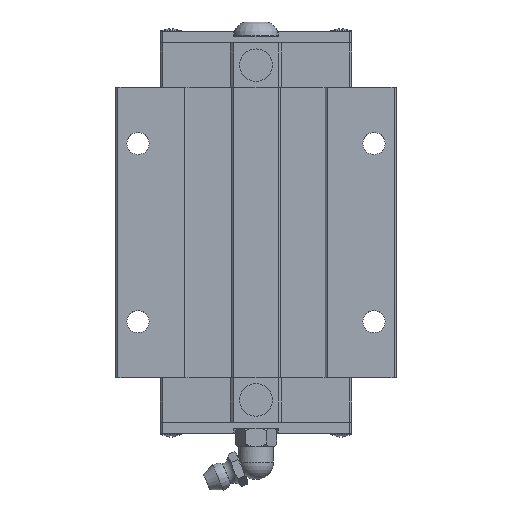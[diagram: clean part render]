
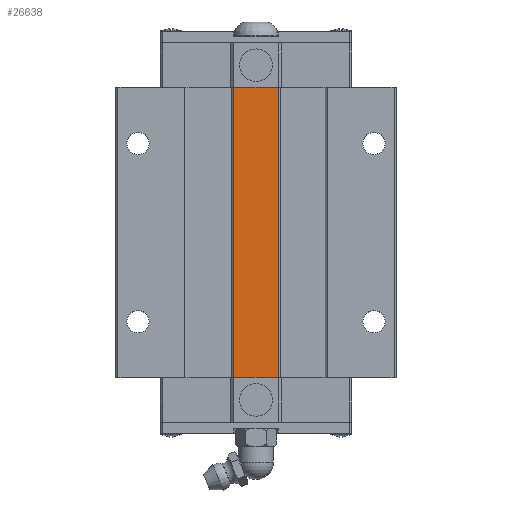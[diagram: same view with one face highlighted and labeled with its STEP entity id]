
A CAD part, top view. The second image highlights one B-rep face of the part: STEP entity #26638.
In plain terms, the highlighted planar face has unit normal (0, 0, 1).
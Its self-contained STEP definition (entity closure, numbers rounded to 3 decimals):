
#14038 = PLANE('',#14039);
#14039 = AXIS2_PLACEMENT_3D('',#14040,#14041,#14042);
#14040 = CARTESIAN_POINT('',(0.,77.7,18.91));
#14041 = DIRECTION('',(0.,-1.,0.));
#14042 = DIRECTION('',(1.,0.,0.));
#23508 = PLANE('',#23509);
#23509 = AXIS2_PLACEMENT_3D('',#23510,#23511,#23512);
#23510 = CARTESIAN_POINT('',(0.,12.5,18.91));
#23511 = DIRECTION('',(0.,-1.,0.));
#23512 = DIRECTION('',(1.,0.,0.));
#25455 = VERTEX_POINT('',#25456);
#25456 = CARTESIAN_POINT('',(5.,12.5,30.));
#25470 = PLANE('',#25471);
#25471 = AXIS2_PLACEMENT_3D('',#25472,#25473,#25474);
#25472 = CARTESIAN_POINT('',(5.,77.7,30.));
#25473 = DIRECTION('',(0.707,0.,0.707));
#25474 = DIRECTION('',(-0.707,0.,0.707));
#25482 = EDGE_CURVE('',#25483,#25455,#25485,.T.);
#25483 = VERTEX_POINT('',#25484);
#25484 = CARTESIAN_POINT('',(-5.,12.5,30.));
#25485 = SURFACE_CURVE('',#25486,(#25490,#25497),.PCURVE_S1.);
#25486 = LINE('',#25487,#25488);
#25487 = CARTESIAN_POINT('',(5.,12.5,30.));
#25488 = VECTOR('',#25489,1.);
#25489 = DIRECTION('',(1.,0.,0.));
#25490 = PCURVE('',#23508,#25491);
#25491 = DEFINITIONAL_REPRESENTATION('',(#25492),#25496);
#25492 = LINE('',#25493,#25494);
#25493 = CARTESIAN_POINT('',(5.,11.09));
#25494 = VECTOR('',#25495,1.);
#25495 = DIRECTION('',(1.,0.));
#25496 = ( GEOMETRIC_REPRESENTATION_CONTEXT(2) 
PARAMETRIC_REPRESENTATION_CONTEXT() REPRESENTATION_CONTEXT('2D SPACE',''
  ) );
#25497 = PCURVE('',#25498,#25503);
#25498 = PLANE('',#25499);
#25499 = AXIS2_PLACEMENT_3D('',#25500,#25501,#25502);
#25500 = CARTESIAN_POINT('',(-5.,77.7,30.));
#25501 = DIRECTION('',(0.,0.,1.));
#25502 = DIRECTION('',(-1.,0.,0.));
#25503 = DEFINITIONAL_REPRESENTATION('',(#25504),#25508);
#25504 = LINE('',#25505,#25506);
#25505 = CARTESIAN_POINT('',(-10.,65.2));
#25506 = VECTOR('',#25507,1.);
#25507 = DIRECTION('',(-1.,0.));
#25508 = ( GEOMETRIC_REPRESENTATION_CONTEXT(2) 
PARAMETRIC_REPRESENTATION_CONTEXT() REPRESENTATION_CONTEXT('2D SPACE',''
  ) );
#25526 = PLANE('',#25527);
#25527 = AXIS2_PLACEMENT_3D('',#25528,#25529,#25530);
#25528 = CARTESIAN_POINT('',(-5.5,77.7,29.5));
#25529 = DIRECTION('',(-0.707,0.,0.707));
#25530 = DIRECTION('',(-0.707,0.,-0.707));
#26328 = VERTEX_POINT('',#26329);
#26329 = CARTESIAN_POINT('',(-5.,77.7,30.));
#26350 = EDGE_CURVE('',#26351,#26328,#26353,.T.);
#26351 = VERTEX_POINT('',#26352);
#26352 = CARTESIAN_POINT('',(5.,77.7,30.));
#26353 = SURFACE_CURVE('',#26354,(#26358,#26365),.PCURVE_S1.);
#26354 = LINE('',#26355,#26356);
#26355 = CARTESIAN_POINT('',(5.,77.7,30.));
#26356 = VECTOR('',#26357,1.);
#26357 = DIRECTION('',(-1.,0.,0.));
#26358 = PCURVE('',#14038,#26359);
#26359 = DEFINITIONAL_REPRESENTATION('',(#26360),#26364);
#26360 = LINE('',#26361,#26362);
#26361 = CARTESIAN_POINT('',(5.,11.09));
#26362 = VECTOR('',#26363,1.);
#26363 = DIRECTION('',(-1.,0.));
#26364 = ( GEOMETRIC_REPRESENTATION_CONTEXT(2) 
PARAMETRIC_REPRESENTATION_CONTEXT() REPRESENTATION_CONTEXT('2D SPACE',''
  ) );
#26365 = PCURVE('',#25498,#26366);
#26366 = DEFINITIONAL_REPRESENTATION('',(#26367),#26371);
#26367 = LINE('',#26368,#26369);
#26368 = CARTESIAN_POINT('',(-10.,0.));
#26369 = VECTOR('',#26370,1.);
#26370 = DIRECTION('',(1.,0.));
#26371 = ( GEOMETRIC_REPRESENTATION_CONTEXT(2) 
PARAMETRIC_REPRESENTATION_CONTEXT() REPRESENTATION_CONTEXT('2D SPACE',''
  ) );
#26596 = EDGE_CURVE('',#26328,#25483,#26597,.T.);
#26597 = SURFACE_CURVE('',#26598,(#26602,#26609),.PCURVE_S1.);
#26598 = LINE('',#26599,#26600);
#26599 = CARTESIAN_POINT('',(-5.,77.7,30.));
#26600 = VECTOR('',#26601,1.);
#26601 = DIRECTION('',(0.,-1.,0.));
#26602 = PCURVE('',#25526,#26603);
#26603 = DEFINITIONAL_REPRESENTATION('',(#26604),#26608);
#26604 = LINE('',#26605,#26606);
#26605 = CARTESIAN_POINT('',(-0.707,0.));
#26606 = VECTOR('',#26607,1.);
#26607 = DIRECTION('',(-0.,1.));
#26608 = ( GEOMETRIC_REPRESENTATION_CONTEXT(2) 
PARAMETRIC_REPRESENTATION_CONTEXT() REPRESENTATION_CONTEXT('2D SPACE',''
  ) );
#26609 = PCURVE('',#25498,#26610);
#26610 = DEFINITIONAL_REPRESENTATION('',(#26611),#26615);
#26611 = LINE('',#26612,#26613);
#26612 = CARTESIAN_POINT('',(0.,0.));
#26613 = VECTOR('',#26614,1.);
#26614 = DIRECTION('',(0.,1.));
#26615 = ( GEOMETRIC_REPRESENTATION_CONTEXT(2) 
PARAMETRIC_REPRESENTATION_CONTEXT() REPRESENTATION_CONTEXT('2D SPACE',''
  ) );
#26638 = ADVANCED_FACE('',(#26639),#25498,.T.);
#26639 = FACE_BOUND('',#26640,.T.);
#26640 = EDGE_LOOP('',(#26641,#26642,#26663,#26664));
#26641 = ORIENTED_EDGE('',*,*,#25482,.T.);
#26642 = ORIENTED_EDGE('',*,*,#26643,.F.);
#26643 = EDGE_CURVE('',#26351,#25455,#26644,.T.);
#26644 = SURFACE_CURVE('',#26645,(#26649,#26656),.PCURVE_S1.);
#26645 = LINE('',#26646,#26647);
#26646 = CARTESIAN_POINT('',(5.,77.7,30.));
#26647 = VECTOR('',#26648,1.);
#26648 = DIRECTION('',(0.,-1.,0.));
#26649 = PCURVE('',#25498,#26650);
#26650 = DEFINITIONAL_REPRESENTATION('',(#26651),#26655);
#26651 = LINE('',#26652,#26653);
#26652 = CARTESIAN_POINT('',(-10.,0.));
#26653 = VECTOR('',#26654,1.);
#26654 = DIRECTION('',(0.,1.));
#26655 = ( GEOMETRIC_REPRESENTATION_CONTEXT(2) 
PARAMETRIC_REPRESENTATION_CONTEXT() REPRESENTATION_CONTEXT('2D SPACE',''
  ) );
#26656 = PCURVE('',#25470,#26657);
#26657 = DEFINITIONAL_REPRESENTATION('',(#26658),#26662);
#26658 = LINE('',#26659,#26660);
#26659 = CARTESIAN_POINT('',(0.,0.));
#26660 = VECTOR('',#26661,1.);
#26661 = DIRECTION('',(0.,1.));
#26662 = ( GEOMETRIC_REPRESENTATION_CONTEXT(2) 
PARAMETRIC_REPRESENTATION_CONTEXT() REPRESENTATION_CONTEXT('2D SPACE',''
  ) );
#26663 = ORIENTED_EDGE('',*,*,#26350,.T.);
#26664 = ORIENTED_EDGE('',*,*,#26596,.T.);
